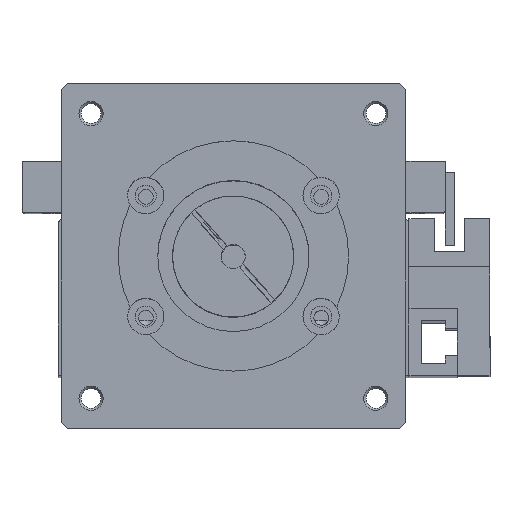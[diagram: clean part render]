
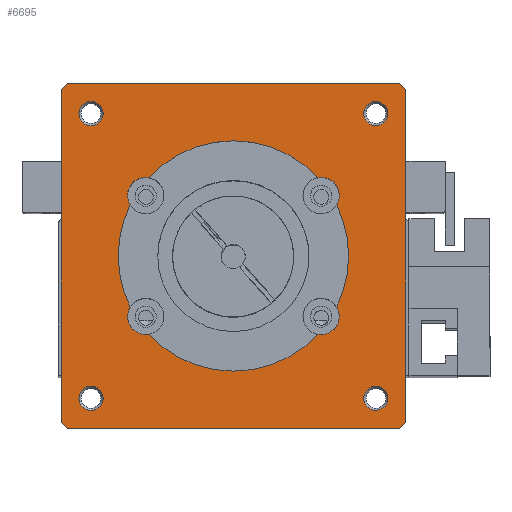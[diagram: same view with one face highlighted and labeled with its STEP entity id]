
A CAD part, top view. The second image highlights one B-rep face of the part: STEP entity #6695.
In plain terms, the highlighted planar face has unit normal (0, 0, 1).
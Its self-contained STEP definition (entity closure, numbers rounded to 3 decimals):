
#6272=CARTESIAN_POINT('',(45.571,36.954,0.0));
#6273=VERTEX_POINT('',#6272);
#6289=CARTESIAN_POINT('',(45.571,20.046,0.0));
#6290=VERTEX_POINT('',#6289);
#6297=CARTESIAN_POINT('',(28.5,28.5,0.0));
#6298=DIRECTION('',(0.0,0.0,-1.0));
#6299=DIRECTION('',(-1.0,0.0,0.0));
#6300=AXIS2_PLACEMENT_3D('',#6297,#6298,#6299);
#6301=CIRCLE('',#6300,19.05);
#6302=EDGE_CURVE('',#6273,#6290,#6301,.T.);
#6312=CARTESIAN_POINT('',(14.531,15.547,0.0));
#6313=VERTEX_POINT('',#6312);
#6322=CARTESIAN_POINT('',(42.469,15.547,0.0));
#6323=VERTEX_POINT('',#6322);
#6324=CARTESIAN_POINT('',(28.5,28.5,0.0));
#6325=DIRECTION('',(0.0,0.0,-1.0));
#6326=DIRECTION('',(-1.0,0.0,0.0));
#6327=AXIS2_PLACEMENT_3D('',#6324,#6325,#6326);
#6328=CIRCLE('',#6327,19.05);
#6329=EDGE_CURVE('',#6323,#6313,#6328,.T.);
#6356=CARTESIAN_POINT('',(14.531,41.453,0.0));
#6357=VERTEX_POINT('',#6356);
#6373=CARTESIAN_POINT('',(42.469,41.453,0.0));
#6374=VERTEX_POINT('',#6373);
#6381=CARTESIAN_POINT('',(28.5,28.5,0.0));
#6382=DIRECTION('',(0.0,0.0,-1.0));
#6383=DIRECTION('',(-1.0,0.0,0.0));
#6384=AXIS2_PLACEMENT_3D('',#6381,#6382,#6383);
#6385=CIRCLE('',#6384,19.05);
#6386=EDGE_CURVE('',#6357,#6374,#6385,.T.);
#6396=CARTESIAN_POINT('',(11.429,36.954,0.0));
#6397=VERTEX_POINT('',#6396);
#6406=CARTESIAN_POINT('',(11.429,20.046,0.0));
#6407=VERTEX_POINT('',#6406);
#6408=CARTESIAN_POINT('',(28.5,28.5,0.0));
#6409=DIRECTION('',(0.0,0.0,-1.0));
#6410=DIRECTION('',(-1.0,0.0,0.0));
#6411=AXIS2_PLACEMENT_3D('',#6408,#6409,#6410);
#6412=CIRCLE('',#6411,19.05);
#6413=EDGE_CURVE('',#6407,#6397,#6412,.T.);
#6458=CARTESIAN_POINT('',(14.,38.5,0.0));
#6459=DIRECTION('',(0.0,0.0,-1.0));
#6460=DIRECTION('',(1.0,0.0,0.0));
#6461=AXIS2_PLACEMENT_3D('',#6458,#6459,#6460);
#6462=CIRCLE('',#6461,3.);
#6463=EDGE_CURVE('',#6397,#6357,#6462,.T.);
#6493=CARTESIAN_POINT('',(43.,38.5,0.0));
#6494=DIRECTION('',(0.0,0.0,-1.0));
#6495=DIRECTION('',(1.0,0.0,0.0));
#6496=AXIS2_PLACEMENT_3D('',#6493,#6494,#6495);
#6497=CIRCLE('',#6496,3.);
#6498=EDGE_CURVE('',#6374,#6273,#6497,.T.);
#6518=CARTESIAN_POINT('',(56.,57.,0.0));
#6519=VERTEX_POINT('',#6518);
#6526=CARTESIAN_POINT('',(57.,56.,0.0));
#6527=VERTEX_POINT('',#6526);
#6528=CARTESIAN_POINT('',(56.,57.,0.0));
#6529=DIRECTION('',(0.707,-0.707,0.0));
#6530=VECTOR('',#6529,1.414);
#6531=LINE('',#6528,#6530);
#6532=EDGE_CURVE('',#6519,#6527,#6531,.T.);
#6549=CARTESIAN_POINT('',(57.0,1.0,0.0));
#6550=VERTEX_POINT('',#6549);
#6551=CARTESIAN_POINT('',(57.0,1.0,0.0));
#6552=DIRECTION('',(0.0,1.0,0.0));
#6553=VECTOR('',#6552,55.);
#6554=LINE('',#6551,#6553);
#6555=EDGE_CURVE('',#6550,#6527,#6554,.T.);
#6574=CARTESIAN_POINT('',(28.5,28.5,0.0));
#6575=DIRECTION('',(0.0,0.0,1.0));
#6576=DIRECTION('',(1.0,0.0,0.0));
#6577=AXIS2_PLACEMENT_3D('',#6574,#6575,#6576);
#6578=PLANE('',#6577);
#6579=ORIENTED_EDGE('',*,*,#6532,.F.);
#6580=CARTESIAN_POINT('',(1.,57.0,0.0));
#6581=VERTEX_POINT('',#6580);
#6582=CARTESIAN_POINT('',(56.,57.,0.0));
#6583=DIRECTION('',(-1.0,0.0,0.0));
#6584=VECTOR('',#6583,55.);
#6585=LINE('',#6582,#6584);
#6586=EDGE_CURVE('',#6519,#6581,#6585,.T.);
#6587=ORIENTED_EDGE('',*,*,#6586,.T.);
#6588=CARTESIAN_POINT('',(0.0,56.,0.0));
#6589=VERTEX_POINT('',#6588);
#6590=CARTESIAN_POINT('',(0.0,56.,0.0));
#6591=DIRECTION('',(0.707,0.707,0.0));
#6592=VECTOR('',#6591,1.414);
#6593=LINE('',#6590,#6592);
#6594=EDGE_CURVE('',#6589,#6581,#6593,.T.);
#6595=ORIENTED_EDGE('',*,*,#6594,.F.);
#6596=CARTESIAN_POINT('',(0.0,1.,0.0));
#6597=VERTEX_POINT('',#6596);
#6598=CARTESIAN_POINT('',(0.0,56.,0.0));
#6599=DIRECTION('',(0.0,-1.0,0.0));
#6600=VECTOR('',#6599,55.);
#6601=LINE('',#6598,#6600);
#6602=EDGE_CURVE('',#6589,#6597,#6601,.T.);
#6603=ORIENTED_EDGE('',*,*,#6602,.T.);
#6604=CARTESIAN_POINT('',(1.0,0.0,0.0));
#6605=VERTEX_POINT('',#6604);
#6606=CARTESIAN_POINT('',(1.0,0.0,0.0));
#6607=DIRECTION('',(-0.707,0.707,0.0));
#6608=VECTOR('',#6607,1.414);
#6609=LINE('',#6606,#6608);
#6610=EDGE_CURVE('',#6605,#6597,#6609,.T.);
#6611=ORIENTED_EDGE('',*,*,#6610,.F.);
#6612=CARTESIAN_POINT('',(56.,0.0,0.0));
#6613=VERTEX_POINT('',#6612);
#6614=CARTESIAN_POINT('',(1.0,0.0,0.0));
#6615=DIRECTION('',(1.0,0.0,0.0));
#6616=VECTOR('',#6615,55.);
#6617=LINE('',#6614,#6616);
#6618=EDGE_CURVE('',#6605,#6613,#6617,.T.);
#6619=ORIENTED_EDGE('',*,*,#6618,.T.);
#6620=CARTESIAN_POINT('',(57.0,1.0,0.0));
#6621=DIRECTION('',(-0.707,-0.707,0.0));
#6622=VECTOR('',#6621,1.414);
#6623=LINE('',#6620,#6622);
#6624=EDGE_CURVE('',#6550,#6613,#6623,.T.);
#6625=ORIENTED_EDGE('',*,*,#6624,.F.);
#6626=ORIENTED_EDGE('',*,*,#6555,.T.);
#6627=EDGE_LOOP('',(#6579,#6587,#6595,#6603,#6611,#6619,#6625,#6626));
#6628=FACE_OUTER_BOUND('',#6627,.T.);
#6629=ORIENTED_EDGE('',*,*,#6413,.T.);
#6630=ORIENTED_EDGE('',*,*,#6463,.T.);
#6631=ORIENTED_EDGE('',*,*,#6386,.T.);
#6632=ORIENTED_EDGE('',*,*,#6498,.T.);
#6633=ORIENTED_EDGE('',*,*,#6302,.T.);
#6634=CARTESIAN_POINT('',(43.,18.5,0.0));
#6635=DIRECTION('',(0.0,0.0,-1.0));
#6636=DIRECTION('',(1.0,0.0,0.0));
#6637=AXIS2_PLACEMENT_3D('',#6634,#6635,#6636);
#6638=CIRCLE('',#6637,3.);
#6639=EDGE_CURVE('',#6290,#6323,#6638,.T.);
#6640=ORIENTED_EDGE('',*,*,#6639,.T.);
#6641=ORIENTED_EDGE('',*,*,#6329,.T.);
#6642=CARTESIAN_POINT('',(14.,18.5,0.0));
#6643=DIRECTION('',(0.0,0.0,-1.0));
#6644=DIRECTION('',(1.0,0.0,0.0));
#6645=AXIS2_PLACEMENT_3D('',#6642,#6643,#6644);
#6646=CIRCLE('',#6645,3.);
#6647=EDGE_CURVE('',#6313,#6407,#6646,.T.);
#6648=ORIENTED_EDGE('',*,*,#6647,.T.);
#6649=EDGE_LOOP('',(#6629,#6630,#6631,#6632,#6633,#6640,#6641,#6648));
#6650=FACE_BOUND('',#6649,.T.);
#6651=CARTESIAN_POINT('',(54.05,4.95,0.0));
#6652=VERTEX_POINT('',#6651);
#6653=CARTESIAN_POINT('',(52.05,4.95,0.0));
#6654=DIRECTION('',(0.0,0.0,-1.0));
#6655=DIRECTION('',(1.0,0.0,0.0));
#6656=AXIS2_PLACEMENT_3D('',#6653,#6654,#6655);
#6657=CIRCLE('',#6656,2.0);
#6658=EDGE_CURVE('',#6652,#6652,#6657,.T.);
#6659=ORIENTED_EDGE('',*,*,#6658,.T.);
#6660=EDGE_LOOP('',(#6659));
#6661=FACE_BOUND('',#6660,.T.);
#6662=CARTESIAN_POINT('',(6.95,52.05,0.0));
#6663=VERTEX_POINT('',#6662);
#6664=CARTESIAN_POINT('',(4.95,52.05,0.0));
#6665=DIRECTION('',(0.0,0.0,-1.0));
#6666=DIRECTION('',(1.0,0.0,0.0));
#6667=AXIS2_PLACEMENT_3D('',#6664,#6665,#6666);
#6668=CIRCLE('',#6667,2.0);
#6669=EDGE_CURVE('',#6663,#6663,#6668,.T.);
#6670=ORIENTED_EDGE('',*,*,#6669,.T.);
#6671=EDGE_LOOP('',(#6670));
#6672=FACE_BOUND('',#6671,.T.);
#6673=CARTESIAN_POINT('',(54.05,52.05,0.0));
#6674=VERTEX_POINT('',#6673);
#6675=CARTESIAN_POINT('',(52.05,52.05,0.0));
#6676=DIRECTION('',(0.0,0.0,-1.0));
#6677=DIRECTION('',(1.0,0.0,0.0));
#6678=AXIS2_PLACEMENT_3D('',#6675,#6676,#6677);
#6679=CIRCLE('',#6678,2.0);
#6680=EDGE_CURVE('',#6674,#6674,#6679,.T.);
#6681=ORIENTED_EDGE('',*,*,#6680,.T.);
#6682=EDGE_LOOP('',(#6681));
#6683=FACE_BOUND('',#6682,.T.);
#6684=CARTESIAN_POINT('',(6.95,4.95,0.0));
#6685=VERTEX_POINT('',#6684);
#6686=CARTESIAN_POINT('',(4.95,4.95,0.0));
#6687=DIRECTION('',(0.0,0.0,-1.0));
#6688=DIRECTION('',(1.0,0.0,0.0));
#6689=AXIS2_PLACEMENT_3D('',#6686,#6687,#6688);
#6690=CIRCLE('',#6689,2.0);
#6691=EDGE_CURVE('',#6685,#6685,#6690,.T.);
#6692=ORIENTED_EDGE('',*,*,#6691,.T.);
#6693=EDGE_LOOP('',(#6692));
#6694=FACE_BOUND('',#6693,.T.);
#6695=ADVANCED_FACE('',(#6628,#6650,#6661,#6672,#6683,#6694),#6578,.T.);
